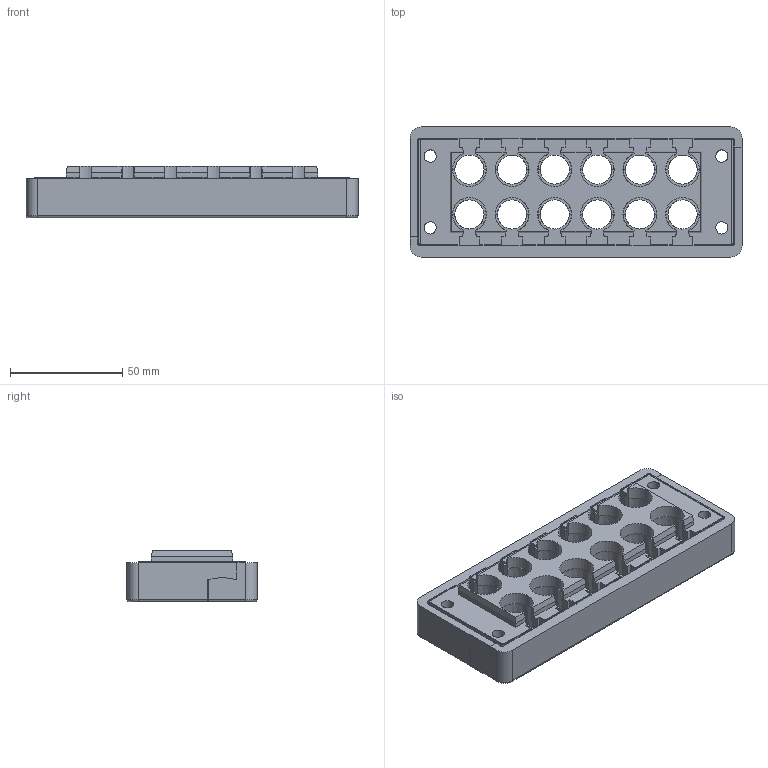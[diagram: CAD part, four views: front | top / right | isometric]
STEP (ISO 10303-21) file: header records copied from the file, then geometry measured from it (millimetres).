
FILE_DESCRIPTION(/* description */ (''),/* implementation_level */ '2;1');
FILE_NAME(/* name */ 'H:\SapWorkDir\Inventor\MP1\ConvertTempPath\87_11_121446_00_A_220617_KDL-D 24-12 ZSB.stp',/* time_stamp */ '2022-06-17T18:15:13+02:00',/* author */ ('BAUER'),/* organization */ (''),/* preprocessor_version */ 'ST-DEVELOPER v16.13',/* originating_system */ 'Autodesk Inventor 2018',/* authorisation */ '');
FILE_SCHEMA (('AUTOMOTIVE_DESIGN { 1 0 10303 214 3 1 1 }'));
Length unit declared in the file: millimetre
Products named in the file (4): 121446; 121390; Leiste; Block2x6 neu
Assembly tree (4 placements, depth 2):
  121446
    121390  x2
    Leiste
    Block2x6 neu
Bounding box: 148 x 58 x 23 mm (x, y, z)
Volume: 109232.4 mm3; surface area: 60566.5 mm2
Topology: 4 solids, 4 shells, 1599 faces, 4428 edges, 2948 vertices
Faces by surface type: plane 1047, cylinder 251, bspline 223, cone 62, torus 16
Full cylindrical faces by diameter (mm): 5 x6, 5.5 x10, 6 x2, 7 x4, 8 x4, 9 x4
Entity records: 41179 total; most frequent: CARTESIAN_POINT 10362, ORIENTED_EDGE 6700, DIRECTION 5828, EDGE_CURVE 3350, VERTEX_POINT 2239, LINE 2234, VECTOR 2234, AXIS2_PLACEMENT_3D 1797
